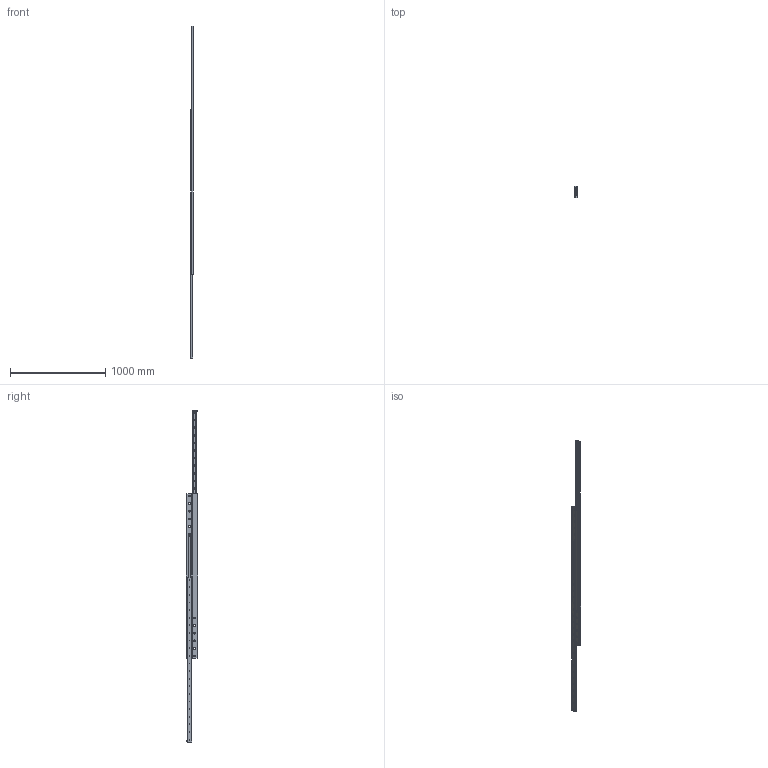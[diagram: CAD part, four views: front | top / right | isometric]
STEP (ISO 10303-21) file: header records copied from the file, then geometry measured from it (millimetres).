
FILE_DESCRIPTION(('STEP AP214'),'1');
FILE_NAME('rail_dss43-1730_01.stp','2017-04-17T03:59:53',('TraceParts'),('TraceParts S.A.'),'Spatial InterOp 3D',' ',' ');
FILE_SCHEMA(('automotive_design'));
Length unit declared in the file: millimetre
Products named in the file (3): rail_dss43-1730_01_1; rail_dss43-1730_01_2; rail_dss43-1730_01_3
Bounding box: 28 x 120 x 3486 mm (x, y, z)
Volume: 3065060 mm3; surface area: 1233228.1 mm2
Topology: 3 solids, 3 shells, 390 faces, 1034 edges, 660 vertices
Faces by surface type: cylinder 164, plane 138, cone 88
Entity records: 12415 total; most frequent: DIRECTION 2252, CARTESIAN_POINT 2087, ORIENTED_EDGE 2068, EDGE_CURVE 1034, AXIS2_PLACEMENT_3D 825, VERTEX_POINT 660, LINE 602, VECTOR 602
